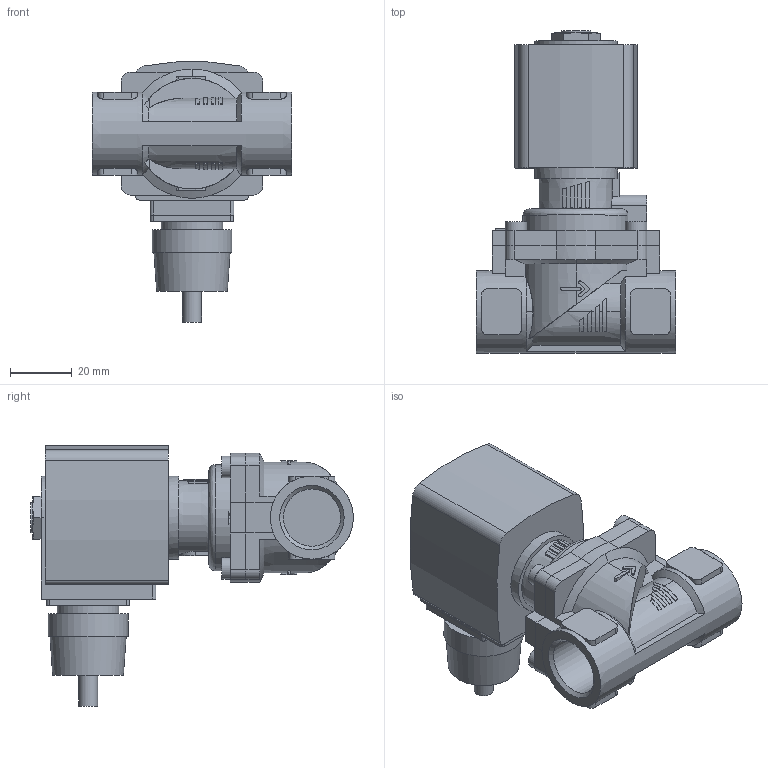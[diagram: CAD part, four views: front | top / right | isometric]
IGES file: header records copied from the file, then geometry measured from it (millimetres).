
Start section: Data from Parasolid IGES Translator 26.0.171, Copyright(c) 2006 Siemens PLM Software. All Rights Reserved.
Global section: file name: 6281-365626-2_2-Way_Solenoid_Valve__Servo-assisted__General_Purpose.igs; native system: By Siemens PLM Incorporated; preprocessor: XPlus GENERIC/IGES 26.0.171; author: Noname; organization: Noname; date: 20240820.151732; units: millimetre
Bounding box: 65 x 105 x 84.63 mm (x, y, z)
Surface area: 33370.3 mm2 (no closed solid volume)
Topology: 0 solids, 0 shells, 331 faces, 1734 edges, 1719 vertices
Faces by surface type: extrusion 197, revolution 134
